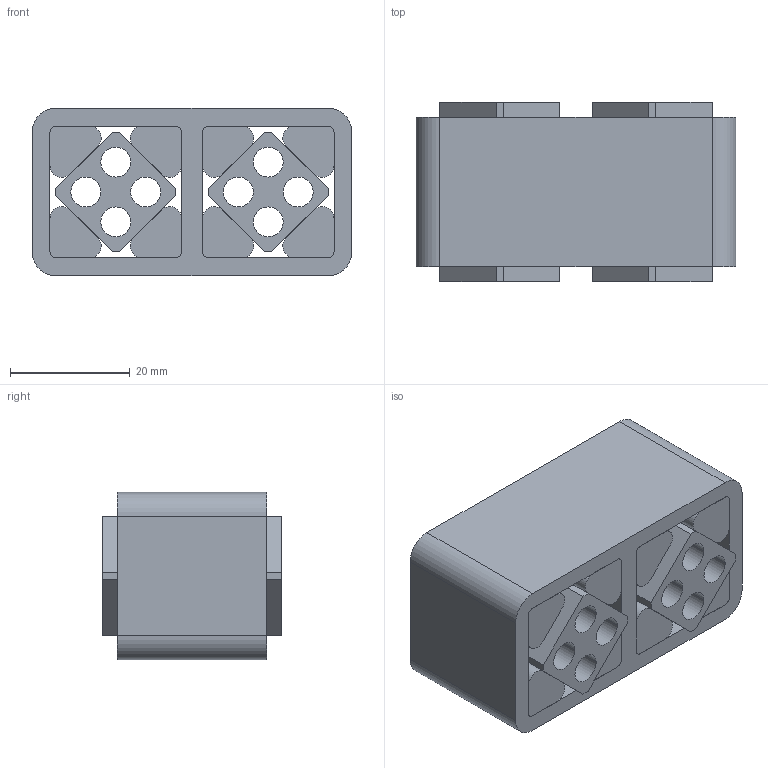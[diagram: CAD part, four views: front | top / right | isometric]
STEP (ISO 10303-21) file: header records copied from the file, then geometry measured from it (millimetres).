
FILE_DESCRIPTION((''),'2;1');
FILE_NAME('\\rostaofc\data\uw\save\daten_f\Normprogramm 3D\Gummifederelemente\DO-A15x25_01041001.stp','2004-12-17T07:03:55',('uw'),(''),'Autodesk Inventor 8','Autodesk Inventor 8','');
FILE_SCHEMA(('AUTOMOTIVE_DESIGN { 1 0 10303 214 1 1 1 1 }'));
Length unit declared in the file: millimetre
Products named in the file (4): DO-A15x25; 4_4_3758-007; 4_4_3758-008; 4_4_3758-009
Assembly tree (11 placements, depth 2):
  DO-A15x25
    4_4_3758-007
    4_4_3758-008  x2
    4_4_3758-009  x8
Bounding box: 53.5 x 30 x 28 mm (x, y, z)
Volume: 32609.1 mm3; surface area: 23675.8 mm2
Topology: 11 solids, 11 shells, 126 faces, 312 edges, 208 vertices
Faces by surface type: plane 74, cylinder 52
Entity records: 1819 total; most frequent: DIRECTION 318, CARTESIAN_POINT 297, ORIENTED_EDGE 276, EDGE_CURVE 138, AXIS2_PLACEMENT_3D 113, VERTEX_POINT 92, VECTOR 92, LINE 92
